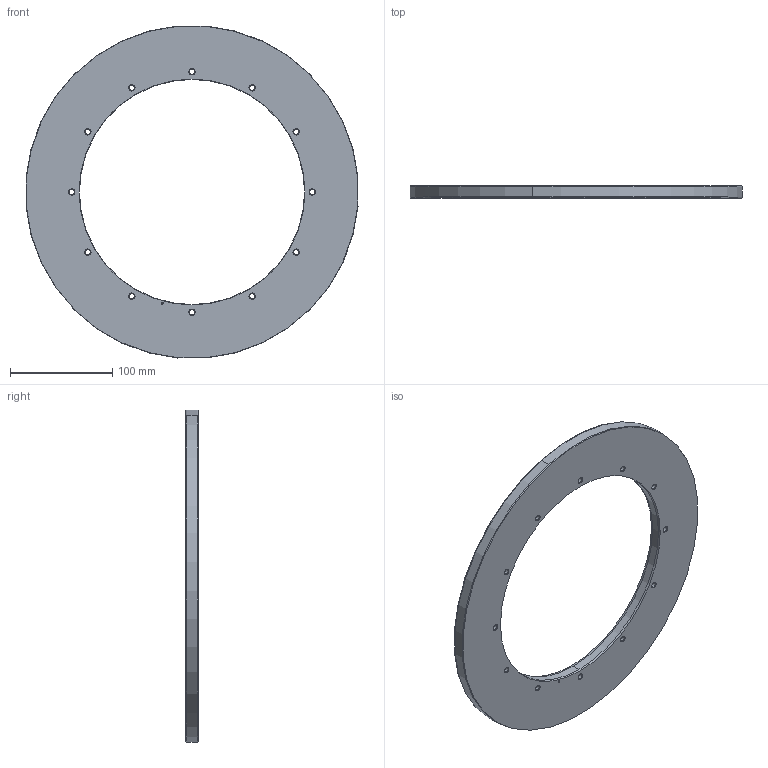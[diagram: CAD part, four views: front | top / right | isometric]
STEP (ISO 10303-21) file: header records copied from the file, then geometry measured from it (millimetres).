
FILE_DESCRIPTION (( 'STEP AP214' ), '1' );
FILE_NAME ('SAR325.STEP', '2024-02-02T07:42:12', ( '' ), ( '' ), 'SwSTEP 2.0', 'SolidWorks 2022', '' );
FILE_SCHEMA (( 'AUTOMOTIVE_DESIGN' ));
Length unit declared in the file: millimetre
Products named in the file (1): SAR325
Bounding box: 324.47 x 12 x 324.47 mm (x, y, z)
Volume: 534314.2 mm3; surface area: 113275.6 mm2
Topology: 1 solids, 1 shells, 130 faces, 288 edges, 170 vertices
Faces by surface type: cone 60, cylinder 56, plane 14
Entity records: 5088 total; most frequent: DIRECTION 714, CARTESIAN_POINT 585, ORIENTED_EDGE 568, AXIS2_PLACEMENT_3D 299, EDGE_CURVE 284, EDGE_LOOP 170, VERTEX_POINT 170, CIRCLE 168
